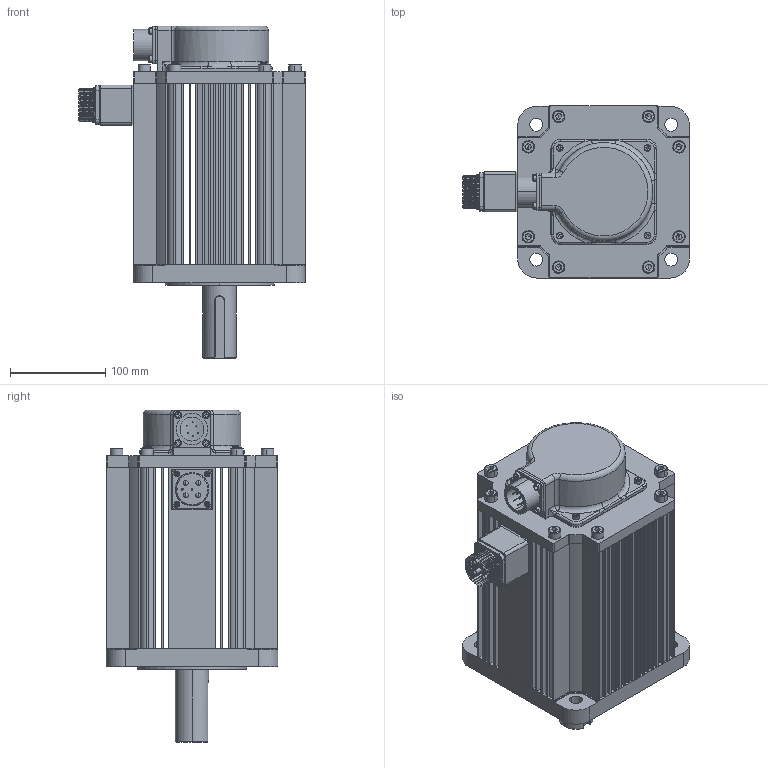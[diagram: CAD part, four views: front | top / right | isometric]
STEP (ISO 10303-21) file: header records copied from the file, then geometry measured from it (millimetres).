
FILE_DESCRIPTION (( 'STEP AP203' ), '1' );
FILE_NAME ('MS6H-180CN15E2-45P5.STEP', '2023-12-26T03:21:41', ( '' ), ( '' ), 'SwSTEP 2.0', 'SolidWorks 2022', '' );
FILE_SCHEMA (( 'CONFIG_CONTROL_DESIGN' ));
Length unit declared in the file: millimetre
Products named in the file (1): MS6H-180CN15E2-45P5
Bounding box: 237.9 x 180 x 348 mm (x, y, z)
Surface area: 410754.2 mm2 (no closed solid volume)
Topology: 0 solids, 76 shells, 1048 faces, 3222 edges, 2170 vertices
Faces by surface type: plane 486, cylinder 327, cone 99, torus 69, bspline 53, sphere 14
Entity records: 42315 total; most frequent: CARTESIAN_POINT 14461, DIRECTION 5987, ORIENTED_EDGE 5042, EDGE_CURVE 3164, VERTEX_POINT 2158, AXIS2_PLACEMENT_3D 2103, VECTOR 1781, LINE 1781
